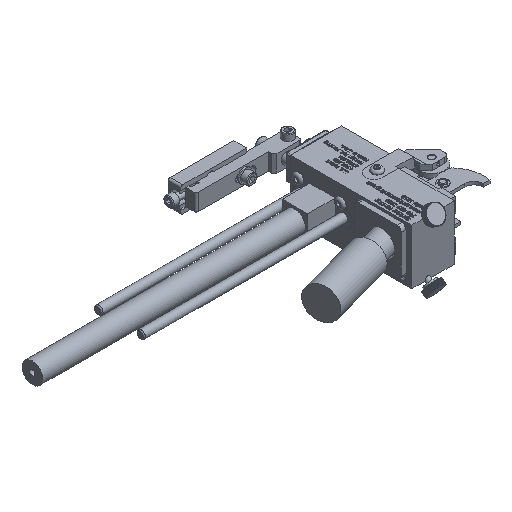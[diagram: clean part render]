
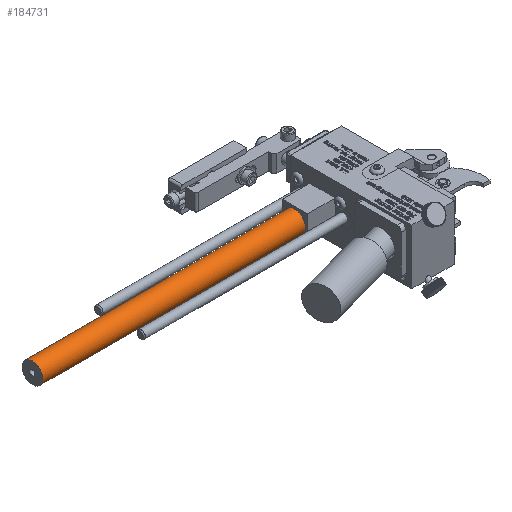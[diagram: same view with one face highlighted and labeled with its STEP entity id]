
A CAD part, isometric view. The second image highlights one B-rep face of the part: STEP entity #184731.
In plain terms, the highlighted cylindrical face has radius 7.747 mm (diameter 15.494 mm), a full revolution.
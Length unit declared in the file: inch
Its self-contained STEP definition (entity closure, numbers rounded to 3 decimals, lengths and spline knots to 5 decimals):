
#184680=CARTESIAN_POINT('',(-1.90763,0.0491,-0.5075));
#184681=VERTEX_POINT('',#184680);
#184682=CARTESIAN_POINT('',(-1.90763,0.0491,-0.8125));
#184683=DIRECTION('',(1.0,0.0,0.0));
#184684=DIRECTION('',(0.0,0.0,-1.0));
#184685=AXIS2_PLACEMENT_3D('',#184682,#184683,#184684);
#184686=CIRCLE('',#184685,0.305);
#184687=EDGE_CURVE('',#184681,#184681,#184686,.T.);
#184697=CARTESIAN_POINT('',(-9.65763,0.0491,-0.5075));
#184698=VERTEX_POINT('',#184697);
#184699=CARTESIAN_POINT('',(-9.65763,0.0491,-0.8125));
#184700=DIRECTION('',(1.0,0.0,0.0));
#184701=DIRECTION('',(0.0,0.0,-1.0));
#184702=AXIS2_PLACEMENT_3D('',#184699,#184700,#184701);
#184703=CIRCLE('',#184702,0.305);
#184704=EDGE_CURVE('',#184698,#184698,#184703,.T.);
#184720=CARTESIAN_POINT('',(-1.90763,0.0491,-0.8125));
#184721=DIRECTION('',(-1.0,0.,0.0));
#184722=DIRECTION('',(0.0,0.0,-1.0));
#184723=AXIS2_PLACEMENT_3D('',#184720,#184721,#184722);
#184724=CYLINDRICAL_SURFACE('',#184723,0.305);
#184725=ORIENTED_EDGE('',*,*,#184704,.T.);
#184726=EDGE_LOOP('',(#184725));
#184727=FACE_OUTER_BOUND('',#184726,.T.);
#184728=ORIENTED_EDGE('',*,*,#184687,.F.);
#184729=EDGE_LOOP('',(#184728));
#184730=FACE_BOUND('',#184729,.T.);
#184731=ADVANCED_FACE('',(#184727,#184730),#184724,.T.);
